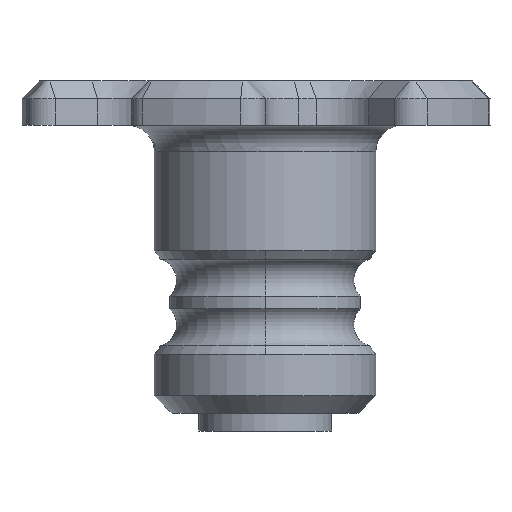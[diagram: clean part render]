
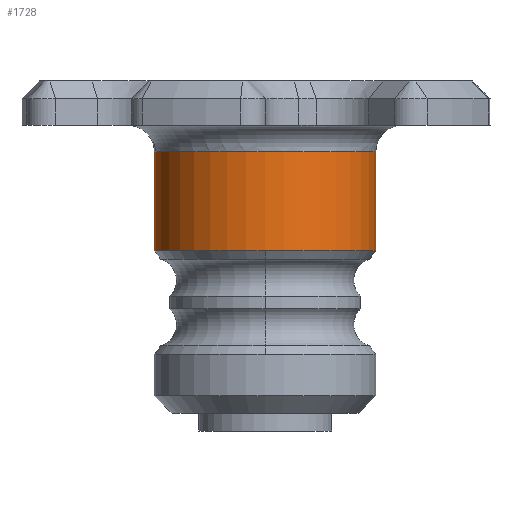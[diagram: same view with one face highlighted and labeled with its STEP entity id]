
A CAD part, front view. The second image highlights one B-rep face of the part: STEP entity #1728.
In plain terms, the highlighted cylindrical face has radius 2.5 mm (diameter 5 mm), a partial arc.
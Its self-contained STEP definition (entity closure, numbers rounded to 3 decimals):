
#153=CARTESIAN_POINT('',(0.,0.,3.671));
#154=DIRECTION('',(0.,0.,1.));
#155=DIRECTION('',(0.,-1.,0.));
#156=AXIS2_PLACEMENT_3D('',#153,#154,#155);
#162=CARTESIAN_POINT('',(0.,0.,5.9));
#163=DIRECTION('',(0.,0.,1.));
#164=DIRECTION('',(-1.,0.,0.));
#165=AXIS2_PLACEMENT_3D('',#162,#163,#164);
#167=DIRECTION('',(0.,0.,-1.));
#168=VECTOR('',#167,2.229);
#169=CARTESIAN_POINT('',(2.5,0.,5.9));
#170=LINE('',#169,#168);
#176=CARTESIAN_POINT('',(0.,0.,3.671));
#177=DIRECTION('',(0.,0.,1.));
#178=DIRECTION('',(-1.,0.,0.));
#179=AXIS2_PLACEMENT_3D('',#176,#177,#178);
#190=DIRECTION('',(0.,0.,-1.));
#191=VECTOR('',#190,2.229);
#192=CARTESIAN_POINT('',(-2.5,0.,5.9));
#193=LINE('',#192,#191);
#1214=CARTESIAN_POINT('',(-2.5,0.,5.9));
#1216=VERTEX_POINT('',#1214);
#1254=CARTESIAN_POINT('',(2.5,0.,3.671));
#1255=CARTESIAN_POINT('',(-2.5,0.,3.671));
#1256=VERTEX_POINT('',#1254);
#1257=VERTEX_POINT('',#1255);
#1262=CARTESIAN_POINT('',(0.,-2.5,3.671));
#1263=VERTEX_POINT('',#1262);
#1266=CARTESIAN_POINT('',(2.5,0.,5.9));
#1267=VERTEX_POINT('',#1266);
#1712=CARTESIAN_POINT('',(0.,0.,0.));
#1713=DIRECTION('',(0.,0.,1.));
#1714=DIRECTION('',(1.,0.,0.));
#1715=AXIS2_PLACEMENT_3D('',#1712,#1713,#1714);
#1716=CYLINDRICAL_SURFACE('',#1715,2.5);
#1718=ORIENTED_EDGE('',*,*,#1717,.F.);
#1720=ORIENTED_EDGE('',*,*,#1719,.F.);
#1722=ORIENTED_EDGE('',*,*,#1721,.T.);
#1724=ORIENTED_EDGE('',*,*,#1723,.T.);
#1725=ORIENTED_EDGE('',*,*,#1702,.F.);
#1726=EDGE_LOOP('',(#1718,#1720,#1722,#1724,#1725));
#1727=FACE_OUTER_BOUND('',#1726,.F.);
#1728=ADVANCED_FACE('',(#1727),#1716,.T.);
#157=CIRCLE('',#156,2.5);
#166=CIRCLE('',#165,2.5);
#180=CIRCLE('',#179,2.5);
#1702=EDGE_CURVE('',#1263,#1256,#157,.T.);
#1717=EDGE_CURVE('',#1257,#1263,#180,.T.);
#1719=EDGE_CURVE('',#1216,#1257,#193,.T.);
#1721=EDGE_CURVE('',#1216,#1267,#166,.T.);
#1723=EDGE_CURVE('',#1267,#1256,#170,.T.);
